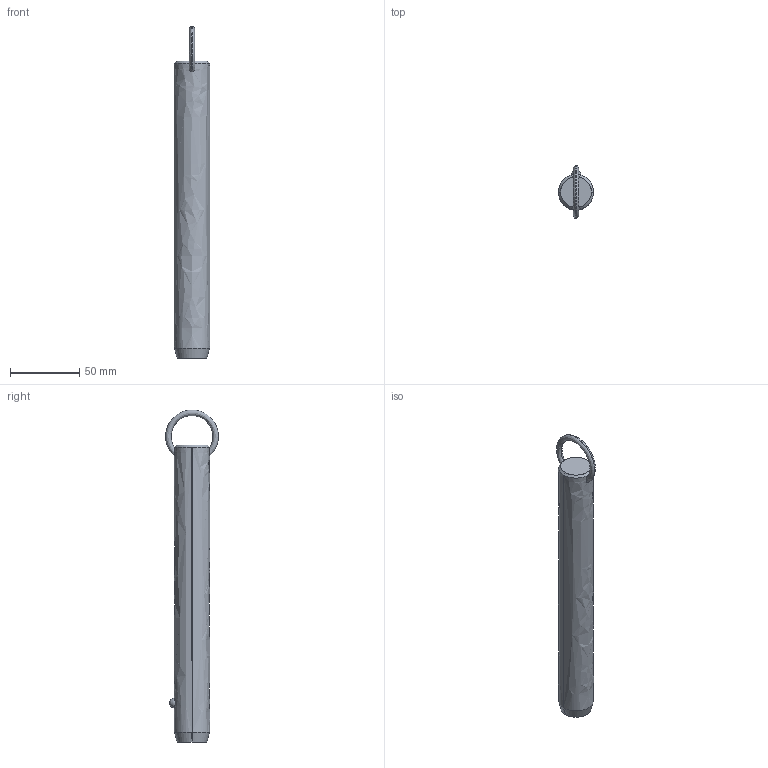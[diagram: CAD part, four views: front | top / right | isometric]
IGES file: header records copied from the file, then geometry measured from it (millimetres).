
Start section: SolidWorks IGES file using analytic representation for surfaces
Global section: file name: C:\Users\liam_\OneDrive\Documents\WORK\Work for WixRoyd\Job Files\J-00019 - Matt Davis CAD Checking\04. CAD Drawings\automotion20190605\P1250.2_v2\P1250.2_v2_20190729_IGES\P1250.100-670.igs; native system: SolidWorks 2017; preprocessor: SolidWorks 2017; author: liam_; date: 190730.174800; units: millimetre
Bounding box: 25.4 x 38.1 x 240 mm (x, y, z)
Surface area: 18897.6 mm2 (no closed solid volume)
Topology: 0 solids, 0 shells, 12 faces, 298 edges, 296 vertices
Faces by surface type: revolution 8, bspline 4
